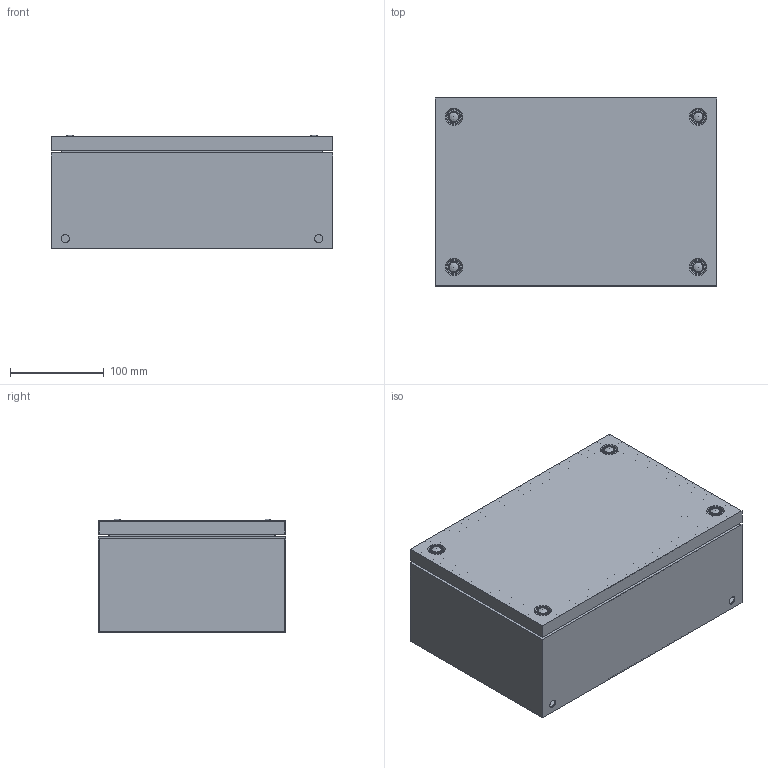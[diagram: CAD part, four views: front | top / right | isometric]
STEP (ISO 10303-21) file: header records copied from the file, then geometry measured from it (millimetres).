
FILE_DESCRIPTION( ( 'STEP AP214' ), '1' );
FILE_NAME( 'p:/temp/worker_219/temp/exporttempdir_2148_76_YtAxR/format_0/STB203012(0).stp', '2021-03-16T12:19:11', ( 'License CC BY-ND 4.0' ), ( 'CADENAS' ), ' ', 'PARTsolutions', ' ' );
FILE_SCHEMA( ( 'AUTOMOTIVE_DESIGN { 1 0 10303 214 1 1 1 1 }' ) );
Length unit declared in the file: millimetre
Products named in the file (4): STB203012(0); _STB203012(0)_01; _STB2030XX(0)_02; _STBXXXXXX(0)_03
Assembly tree (6 placements, depth 2):
  STB203012(0)
    _STB203012(0)_01
    _STB2030XX(0)_02
    _STBXXXXXX(0)_03  x4
Bounding box: 300 x 200 x 120.9 mm (x, y, z)
Volume: 350154.3 mm3; surface area: 531921.1 mm2
Topology: 6 solids, 6 shells, 251 faces, 569 edges, 369 vertices
Faces by surface type: plane 147, cylinder 62, cone 38, sphere 4
Full cylindrical faces by diameter (mm): 3.2 x4, 3.5 x4, 6 x4, 7 x4, 7.5 x4, 8 x2, 8.5 x4, 8.7 x6, 10 x4, 14 x2
Entity records: 7390 total; most frequent: DIRECTION 986, CARTESIAN_POINT 975, ORIENTED_EDGE 860, EDGE_CURVE 430, AXIS2_PLACEMENT_3D 351, EDGE_LOOP 310, VERTEX_POINT 308, LINE 284
